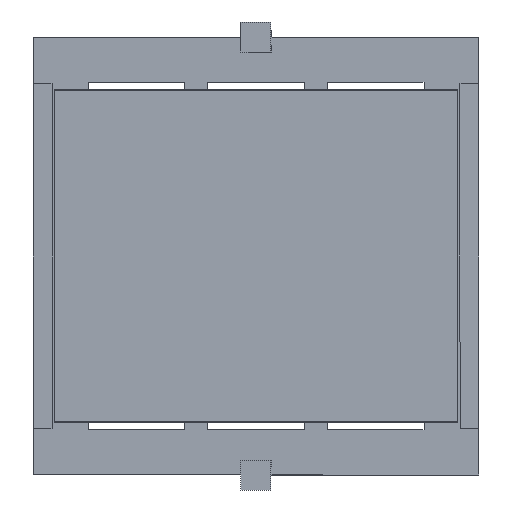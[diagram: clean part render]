
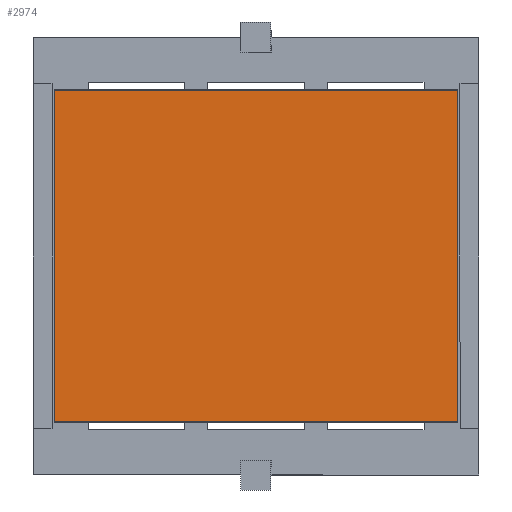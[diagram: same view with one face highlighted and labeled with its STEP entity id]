
A CAD part, front view. The second image highlights one B-rep face of the part: STEP entity #2974.
In plain terms, the highlighted planar face has unit normal (0, -1, 0).
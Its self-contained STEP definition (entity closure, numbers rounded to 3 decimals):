
#63 = CARTESIAN_POINT ( 'NONE',  ( -23.628, -8.053, 21.798 ) ) ;
#79 = EDGE_CURVE ( 'NONE', #4955, #2085, #4813, .T. ) ;
#141 = ORIENTED_EDGE ( 'NONE', *, *, #2833, .F. ) ;
#144 = EDGE_LOOP ( 'NONE', ( #3003, #5582, #141, #3959 ) ) ;
#181 = PLANE ( 'NONE',  #284 ) ;
#187 = EDGE_CURVE ( 'NONE', #4832, #5157, #2244, .T. ) ;
#284 = AXIS2_PLACEMENT_3D ( 'NONE', #671, #4664, #5017 ) ;
#656 = CARTESIAN_POINT ( 'NONE',  ( -23.628, -8.053, 21.798 ) ) ;
#671 = CARTESIAN_POINT ( 'NONE',  ( -23.628, -8.053, 21.798 ) ) ;
#753 = CARTESIAN_POINT ( 'NONE',  ( -23.628, -8.053, -0.3 ) ) ;
#867 = DIRECTION ( 'NONE',  ( 0., 0., -1. ) ) ;
#896 = LINE ( 'NONE', #2191, #1464 ) ;
#926 = DIRECTION ( 'NONE',  ( 1., 0., 0. ) ) ;
#1306 = CARTESIAN_POINT ( 'NONE',  ( 3.296, -8.053, 21.798 ) ) ;
#1464 = VECTOR ( 'NONE', #867, 1000. ) ;
#1836 = DIRECTION ( 'NONE',  ( -1., 0., 0. ) ) ;
#1863 = CARTESIAN_POINT ( 'NONE',  ( -23.628, -8.053, -0.3 ) ) ;
#2085 = VERTEX_POINT ( 'NONE', #753 ) ;
#2191 = CARTESIAN_POINT ( 'NONE',  ( 3.296, -8.053, -0.3 ) ) ;
#2222 = CARTESIAN_POINT ( 'NONE',  ( 3.296, -8.053, -0.3 ) ) ;
#2244 = LINE ( 'NONE', #63, #4367 ) ;
#2821 = VECTOR ( 'NONE', #3067, 1000. ) ;
#2833 = EDGE_CURVE ( 'NONE', #5157, #4955, #896, .T. ) ;
#2974 = ADVANCED_FACE ( 'NONE', ( #3244 ), #181, .F. ) ;
#3003 = ORIENTED_EDGE ( 'NONE', *, *, #4213, .F. ) ;
#3067 = DIRECTION ( 'NONE',  ( 0., 0., 1. ) ) ;
#3244 = FACE_OUTER_BOUND ( 'NONE', #144, .T. ) ;
#3833 = CARTESIAN_POINT ( 'NONE',  ( -23.628, -8.053, -0.3 ) ) ;
#3959 = ORIENTED_EDGE ( 'NONE', *, *, #187, .F. ) ;
#4213 = EDGE_CURVE ( 'NONE', #2085, #4832, #4310, .T. ) ;
#4310 = LINE ( 'NONE', #3833, #2821 ) ;
#4367 = VECTOR ( 'NONE', #926, 1000. ) ;
#4664 = DIRECTION ( 'NONE',  ( 0., 1., 0. ) ) ;
#4813 = LINE ( 'NONE', #1863, #5544 ) ;
#4832 = VERTEX_POINT ( 'NONE', #656 ) ;
#4955 = VERTEX_POINT ( 'NONE', #2222 ) ;
#5017 = DIRECTION ( 'NONE',  ( 0., 0., 1. ) ) ;
#5157 = VERTEX_POINT ( 'NONE', #1306 ) ;
#5544 = VECTOR ( 'NONE', #1836, 1000. ) ;
#5582 = ORIENTED_EDGE ( 'NONE', *, *, #79, .F. ) ;
